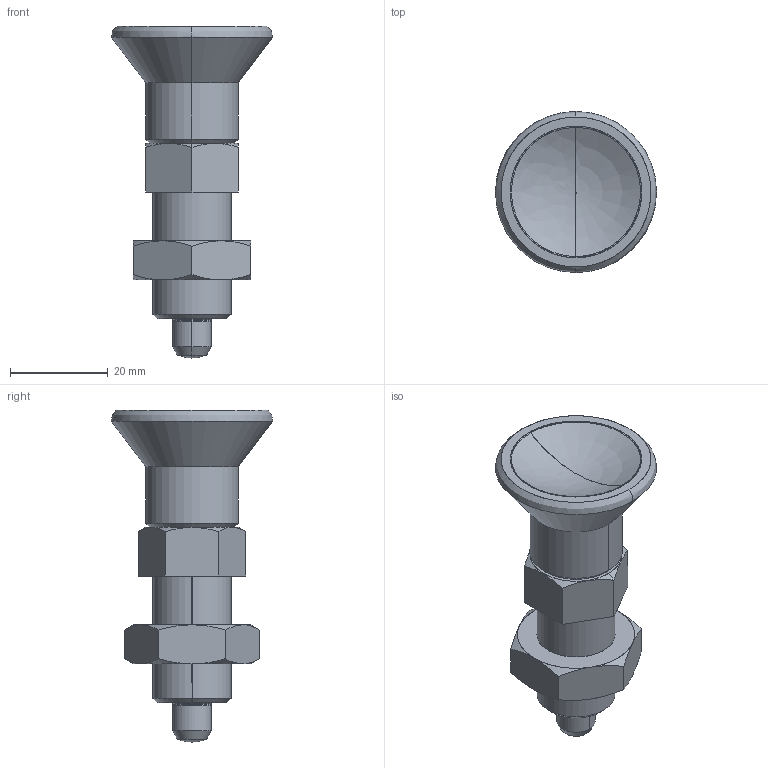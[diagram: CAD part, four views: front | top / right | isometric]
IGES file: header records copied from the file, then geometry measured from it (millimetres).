
Start section: SolidWorks IGES file using analytic representation for surfaces
Global section: file name: X:\11_SW2020-Inv2020\00_全2021-11新製品まで\n\NDXN16W-SUS\ndxn16w-sus.IGS; native system: SolidWorks 2020; preprocessor: SolidWorks 2020; author: ImaoCorp; date: 211026.132022; units: millimetre
Bounding box: 33 x 33.01 x 68 mm (x, y, z)
Surface area: 6851.7 mm2 (no closed solid volume)
Topology: 0 solids, 0 shells, 64 faces, 886 edges, 884 vertices
Faces by surface type: revolution 38, bspline 26
